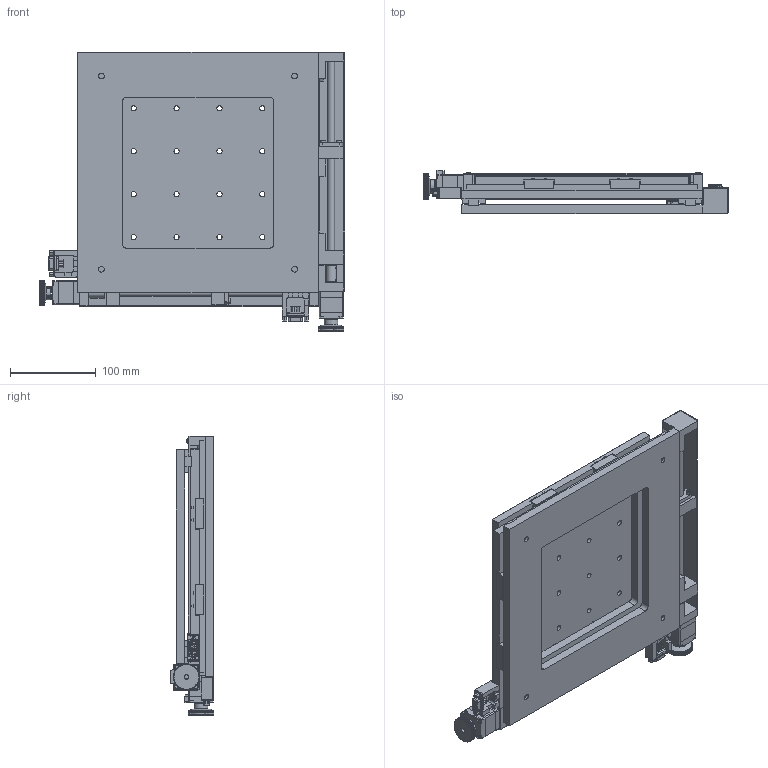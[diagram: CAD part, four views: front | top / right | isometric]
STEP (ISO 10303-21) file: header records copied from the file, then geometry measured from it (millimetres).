
FILE_DESCRIPTION (( 'STEP AP203' ), '1' );
FILE_NAME ('JT250XY-130.step', '2017-01-10T10:30:41', ( '¦K¬P' ), ( '' ), 'SwSTEP 2.0', 'SolidWorks 2012', '' );
FILE_SCHEMA (( 'CONFIG_CONTROL_DESIGN' ));
Products named in the file (1): JT250XY-130
Bounding box: 356 x 51 x 325 mm (x, y, z)
Surface area: 503114.9 mm2 (no closed solid volume)
Topology: 0 solids, 161 shells, 1602 faces, 5340 edges, 3789 vertices
Faces by surface type: plane 1048, cylinder 415, cone 106, torus 21, bspline 7, sphere 5
Full cylindrical faces by diameter (mm): 0.5 x10, 1.04 x9, 1.14 x9, 1.64 x14, 2 x3, 2.5 x2, 3 x6, 3.4 x7, 4 x11, 5 x2, 5.5 x24, 5.7 x4, 6 x36, 6.5 x26, 8 x2, 11 x4, 12 x2, 13 x2, 14.4 x2, 15.8 x2
Entity records: 57804 total; most frequent: CARTESIAN_POINT 13009, DIRECTION 8940, ORIENTED_EDGE 8070, EDGE_CURVE 4984, VERTEX_POINT 3715, LINE 2992, VECTOR 2992, AXIS2_PLACEMENT_3D 2974
